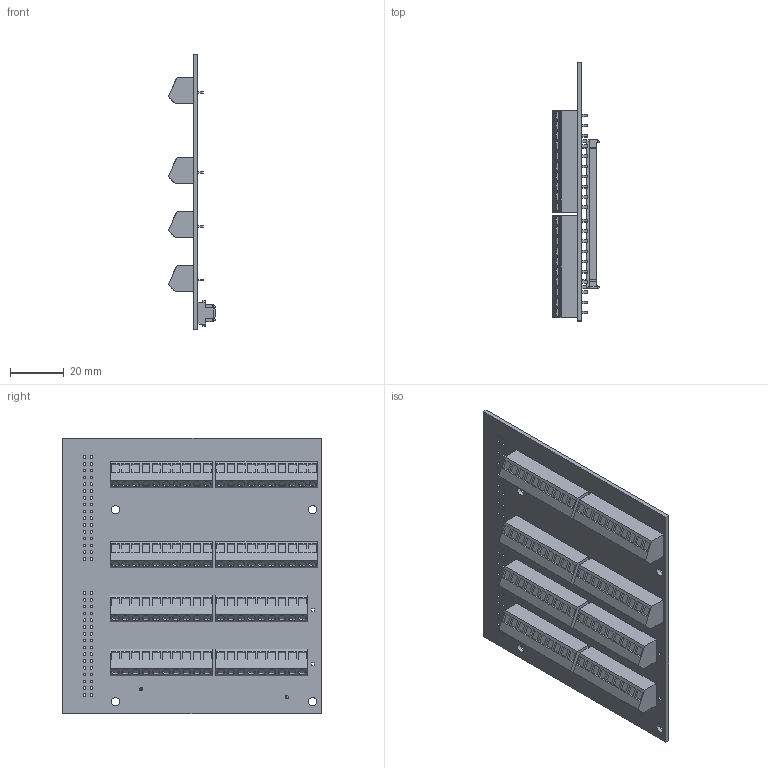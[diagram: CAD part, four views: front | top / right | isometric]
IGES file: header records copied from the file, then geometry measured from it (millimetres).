
Start section:  PTC IGES file: cu_ni-9694.igs
Global section: file name: cu_ni-9694.igs; native system: Pro/ENGINEER by Parametric Technology Corporation; preprocessor: 2011490; author: jbuhisan; organization: Unknown; date: 20130507.143050; units: inch
Bounding box: 17.68 x 96.52 x 102.87 mm (x, y, z)
Surface area: 31210.9 mm2 (no closed solid volume)
Topology: 0 solids, 0 shells, 1867 faces, 9080 edges, 9078 vertices
Faces by surface type: bspline 1353, revolution 514
